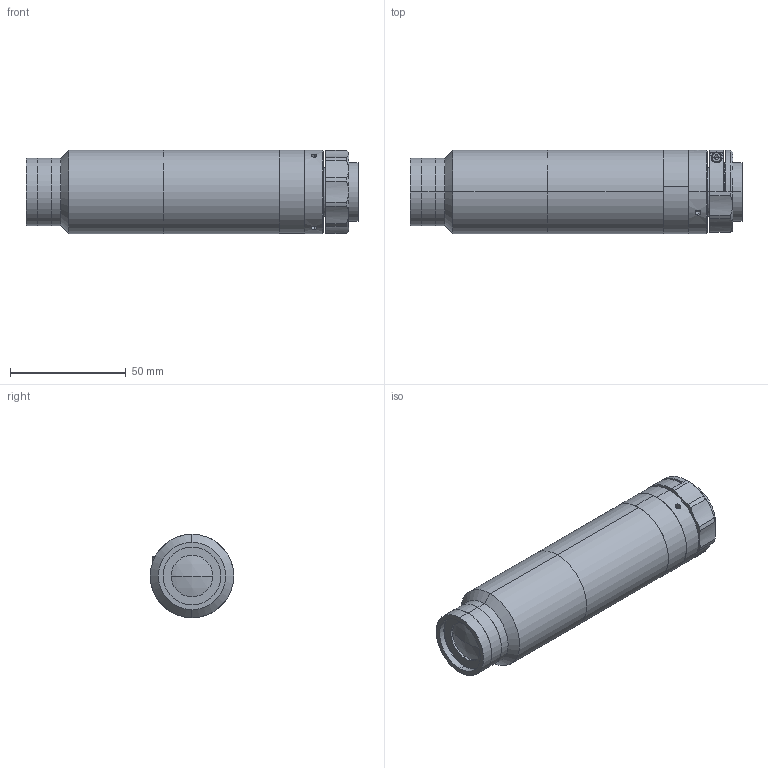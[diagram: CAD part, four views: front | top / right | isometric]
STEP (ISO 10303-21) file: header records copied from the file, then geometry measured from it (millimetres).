
FILE_DESCRIPTION (( 'STEP AP203' ), '1' );
FILE_NAME ('XF-MH08X143.STEP', '2020-08-24T07:11:11', ( 'canrill-02' ), ( '' ), 'SwSTEP 2.0', 'SolidWorks 2014', '' );
FILE_SCHEMA (( 'CONFIG_CONTROL_DESIGN' ));
Length unit declared in the file: millimetre
Products named in the file (1): XF-MH08X143
Bounding box: 143.5 x 36 x 36 mm (x, y, z)
Surface area: 22071.9 mm2 (no closed solid volume)
Topology: 0 solids, 13 shells, 99 faces, 258 edges, 175 vertices
Faces by surface type: cylinder 49, plane 31, cone 15, sphere 2, torus 2
Entity records: 3415 total; most frequent: CARTESIAN_POINT 852, DIRECTION 570, ORIENTED_EDGE 438, EDGE_CURVE 256, AXIS2_PLACEMENT_3D 237, VERTEX_POINT 175, CIRCLE 137, EDGE_LOOP 122
